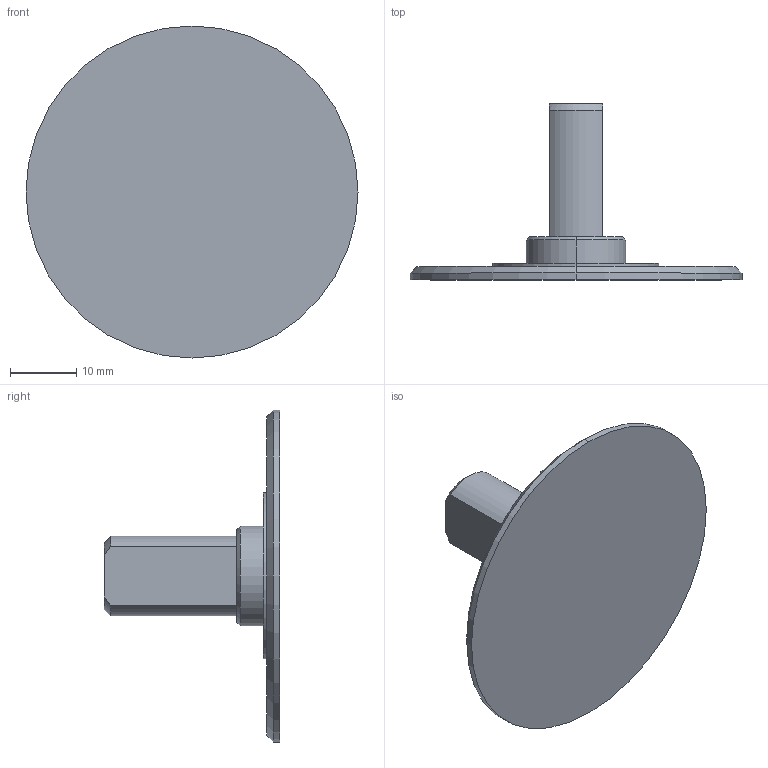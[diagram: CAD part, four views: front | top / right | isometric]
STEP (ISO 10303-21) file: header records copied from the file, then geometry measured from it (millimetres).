
FILE_DESCRIPTION (( 'STEP AP203' ), '1' );
FILE_NAME ('入力側BH500.STEP', '2022-05-30T00:49:58', ( '' ), ( '' ), 'SwSTEP 2.0', 'SolidWorks 2017', '' );
FILE_SCHEMA (( 'CONFIG_CONTROL_DESIGN' ));
Length unit declared in the file: millimetre
Products named in the file (1): 入力側BH500
Bounding box: 50 x 26.5 x 50 mm (x, y, z)
Volume: 5988 mm3; surface area: 5433.6 mm2
Topology: 1 solids, 1 shells, 26 faces, 55 edges, 35 vertices
Faces by surface type: cylinder 11, plane 8, cone 7
Entity records: 789 total; most frequent: DIRECTION 134, CARTESIAN_POINT 129, ORIENTED_EDGE 110, AXIS2_PLACEMENT_3D 56, EDGE_CURVE 55, VERTEX_POINT 35, EDGE_LOOP 30, CIRCLE 29
